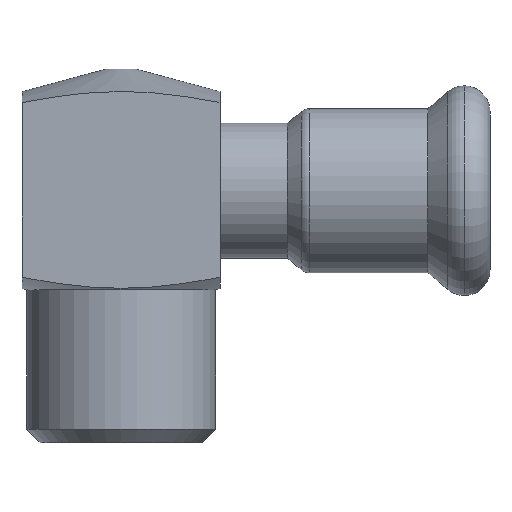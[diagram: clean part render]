
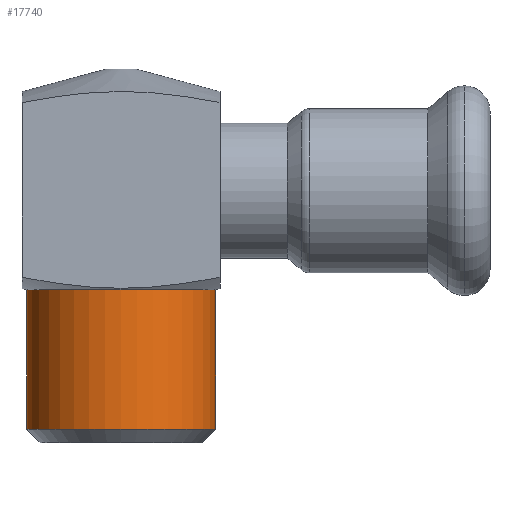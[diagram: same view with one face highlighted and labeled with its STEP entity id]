
A CAD part, top view. The second image highlights one B-rep face of the part: STEP entity #17740.
In plain terms, the highlighted cylindrical face has radius 10.5 mm (diameter 21 mm), a partial arc.
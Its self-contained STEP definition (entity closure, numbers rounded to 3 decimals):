
#7550=CARTESIAN_POINT('',(300.,-111.,0.));
#7560=DIRECTION('',(0.,1.,0.));
#7570=DIRECTION('',(1.,0.,0.));
#7580=AXIS2_PLACEMENT_3D('',#7550,#7560,#7570);
#7590=CIRCLE('',#7580,10.5);
#7600=CARTESIAN_POINT('',(289.5,-111.,0.));
#7610=VERTEX_POINT('',#7600);
#7620=CARTESIAN_POINT('',(310.5,-111.,0.));
#7630=VERTEX_POINT('',#7620);
#7640=EDGE_CURVE('',#7610,#7630,#7590,.T.);
#10480=CARTESIAN_POINT('',(300.,-119.5,0.));
#10490=DIRECTION('',(0.,1.,0.));
#10500=DIRECTION('',(1.,0.,0.));
#10510=AXIS2_PLACEMENT_3D('',#10480,#10490,#10500);
#10520=CYLINDRICAL_SURFACE('',#10510,10.5);
#10530=CARTESIAN_POINT('',(310.5,-119.5,0.));
#10540=DIRECTION('',(0.,1.,0.));
#10550=VECTOR('',#10540,1.);
#10560=LINE('',#10530,#10550);
#10570=CARTESIAN_POINT('',(310.5,-126.5,0.));
#10580=VERTEX_POINT('',#10570);
#10590=EDGE_CURVE('',#10580,#7630,#10560,.T.);
#10620=CARTESIAN_POINT('',(289.5,-119.5,0.));
#10630=DIRECTION('',(0.,1.,0.));
#10640=VECTOR('',#10630,1.);
#10650=LINE('',#10620,#10640);
#10660=CARTESIAN_POINT('',(289.5,-126.5,0.));
#10670=VERTEX_POINT('',#10660);
#10680=EDGE_CURVE('',#10670,#7610,#10650,.T.);
#10700=CARTESIAN_POINT('',(300.,-126.5,0.));
#10710=DIRECTION('',(0.,1.,0.));
#10720=DIRECTION('',(1.,0.,0.));
#10730=AXIS2_PLACEMENT_3D('',#10700,#10710,#10720);
#10740=CIRCLE('',#10730,10.5);
#17340=EDGE_CURVE('',#10670,#10580,#10740,.T.);
#17680=ORIENTED_EDGE('',*,*,#17340,.T.);
#17690=ORIENTED_EDGE('',*,*,#10680,.F.);
#17700=ORIENTED_EDGE('',*,*,#7640,.F.);
#17710=ORIENTED_EDGE('',*,*,#10590,.T.);
#17720=EDGE_LOOP('',(#17710,#17700,#17690,#17680));
#17730=FACE_OUTER_BOUND('',#17720,.T.);
#17740=ADVANCED_FACE('',(#17730),#10520,.T.);
